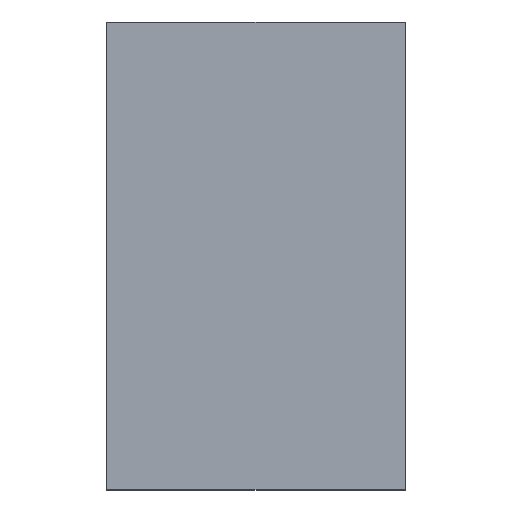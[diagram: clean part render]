
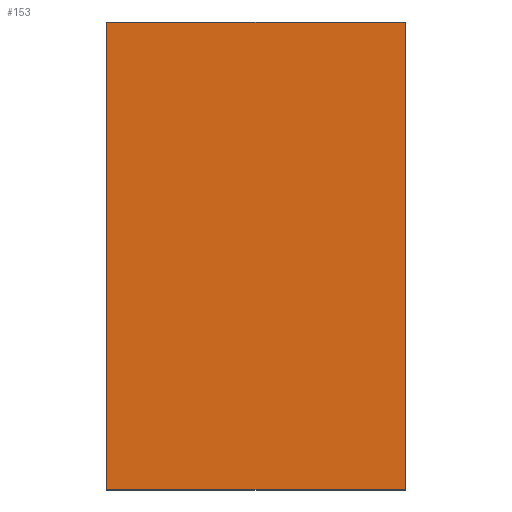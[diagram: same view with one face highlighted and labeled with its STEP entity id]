
A CAD part, top view. The second image highlights one B-rep face of the part: STEP entity #153.
In plain terms, the highlighted planar face has unit normal (0, 0, 1).
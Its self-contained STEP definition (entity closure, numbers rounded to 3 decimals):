
#24 = VERTEX_POINT('',#25);
#25 = CARTESIAN_POINT('',(-0.353,-0.553,0.4));
#40 = VERTEX_POINT('',#41);
#41 = CARTESIAN_POINT('',(-0.353,0.553,0.4));
#47 = EDGE_CURVE('',#24,#40,#48,.T.);
#48 = LINE('',#49,#50);
#49 = CARTESIAN_POINT('',(-0.353,-0.553,0.4));
#50 = VECTOR('',#51,1.);
#51 = DIRECTION('',(0.,1.,0.));
#64 = VERTEX_POINT('',#65);
#65 = CARTESIAN_POINT('',(0.353,-0.553,0.4));
#80 = VERTEX_POINT('',#81);
#81 = CARTESIAN_POINT('',(0.353,0.553,0.4));
#87 = EDGE_CURVE('',#64,#80,#88,.T.);
#88 = LINE('',#89,#90);
#89 = CARTESIAN_POINT('',(0.353,-0.553,0.4));
#90 = VECTOR('',#91,1.);
#91 = DIRECTION('',(0.,1.,0.));
#108 = EDGE_CURVE('',#24,#64,#109,.T.);
#109 = LINE('',#110,#111);
#110 = CARTESIAN_POINT('',(-0.353,-0.553,0.4));
#111 = VECTOR('',#112,1.);
#112 = DIRECTION('',(1.,0.,0.));
#130 = EDGE_CURVE('',#40,#80,#131,.T.);
#131 = LINE('',#132,#133);
#132 = CARTESIAN_POINT('',(-0.353,0.553,0.4));
#133 = VECTOR('',#134,1.);
#134 = DIRECTION('',(1.,0.,0.));
#153 = ADVANCED_FACE('',(#154),#160,.T.);
#154 = FACE_BOUND('',#155,.T.);
#155 = EDGE_LOOP('',(#156,#157,#158,#159));
#156 = ORIENTED_EDGE('',*,*,#47,.F.);
#157 = ORIENTED_EDGE('',*,*,#108,.T.);
#158 = ORIENTED_EDGE('',*,*,#87,.T.);
#159 = ORIENTED_EDGE('',*,*,#130,.F.);
#160 = PLANE('',#161);
#161 = AXIS2_PLACEMENT_3D('',#162,#163,#164);
#162 = CARTESIAN_POINT('',(-0.353,-0.553,0.4));
#163 = DIRECTION('',(0.,0.,1.));
#164 = DIRECTION('',(1.,0.,0.));
